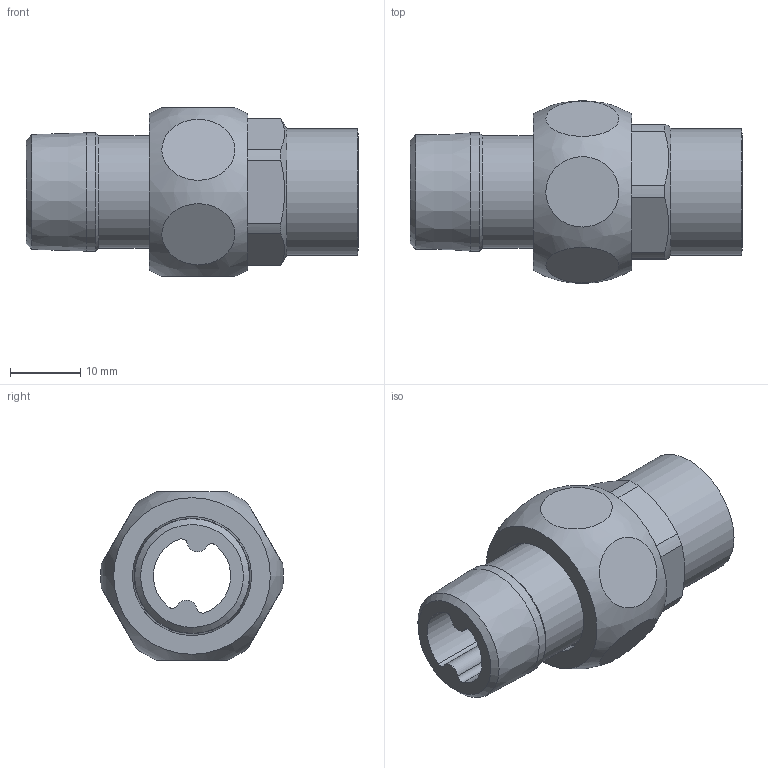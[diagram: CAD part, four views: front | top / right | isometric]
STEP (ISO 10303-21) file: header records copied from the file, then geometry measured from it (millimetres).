
FILE_DESCRIPTION((''),'2;1');
FILE_NAME('\\Lg50001\groups\SANHA Legnica\Engineering\Public\RYSUNKI\SANHA POLSKA\4341g\step\14341g_15-38(1).stp','2010-06-16T09:20:33',('pajchrowski'),(''),'Autodesk Inventor 2009','Autodesk Inventor 2009','');
FILE_SCHEMA(('AUTOMOTIVE_DESIGN { 1 0 10303 214 1 1 1 1 }'));
Length unit declared in the file: millimetre
Products named in the file (4): 14341g_15-38(1); 14382_38-12(1); 14374_12(2); 14380_15-12(1)
Assembly tree (3 placements, depth 2):
  14341g_15-38(1)
    14382_38-12(1)
    14374_12(2)
    14380_15-12(1)
Bounding box: 47.17 x 26 x 24 mm (x, y, z)
Volume: 9320.1 mm3; surface area: 7684.3 mm2
Topology: 3 solids, 3 shells, 67 faces, 138 edges, 86 vertices
Faces by surface type: plane 35, cylinder 24, cone 6, bspline 2
Full cylindrical faces by diameter (mm): 13 x1, 15 x2, 16 x1, 16.8 x1, 16.9 x1, 18 x1, 18.5 x1, 18.63 x1, 20.96 x1
Entity records: 2724 total; most frequent: CARTESIAN_POINT 1238, DIRECTION 316, ORIENTED_EDGE 234, AXIS2_PLACEMENT_3D 139, EDGE_CURVE 117, EDGE_LOOP 100, VERTEX_POINT 83, CIRCLE 67
